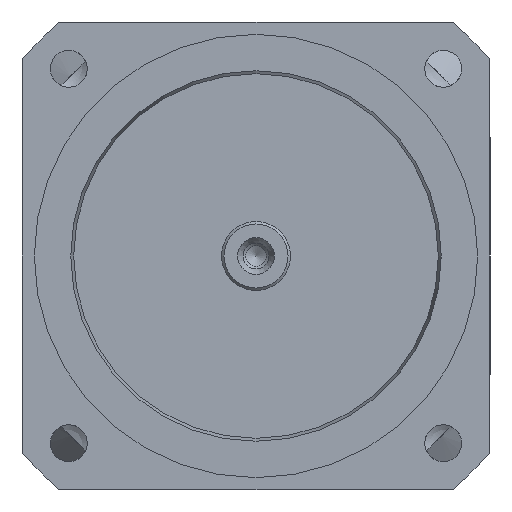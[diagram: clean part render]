
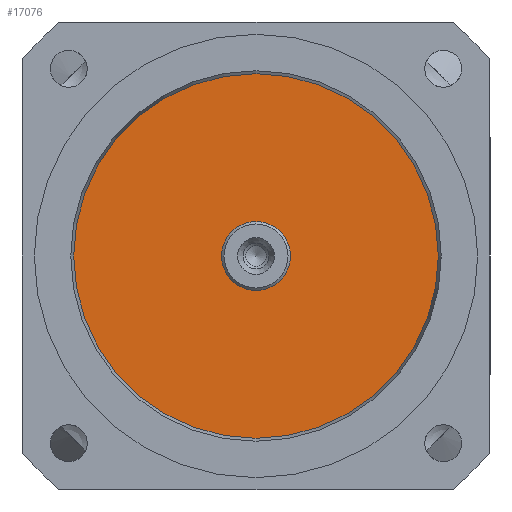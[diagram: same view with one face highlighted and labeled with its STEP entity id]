
A CAD part, left-side view. The second image highlights one B-rep face of the part: STEP entity #17076.
In plain terms, the highlighted planar face has unit normal (-1, 0, 0).
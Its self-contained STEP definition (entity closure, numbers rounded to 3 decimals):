
#3497=PLANE('',#18294);
#4164=FACE_BOUND('',#5502,.T.);
#4423=FACE_OUTER_BOUND('',#5501,.T.);
#5501=EDGE_LOOP('',(#12254));
#5502=EDGE_LOOP('',(#12255));
#6713=CIRCLE('',#18286,14.);
#6717=CIRCLE('',#18295,74.);
#7964=VERTEX_POINT('',#26079);
#7971=VERTEX_POINT('',#26101);
#9642=EDGE_CURVE('',#7964,#7964,#6713,.T.);
#9652=EDGE_CURVE('',#7971,#7971,#6717,.T.);
#12254=ORIENTED_EDGE('',*,*,#9652,.F.);
#12255=ORIENTED_EDGE('',*,*,#9642,.T.);
#17076=ADVANCED_FACE('',(#4423,#4164),#3497,.T.);
#18286=AXIS2_PLACEMENT_3D('',#26080,#20718,#20719);
#18294=AXIS2_PLACEMENT_3D('',#26100,#20740,#20741);
#18295=AXIS2_PLACEMENT_3D('',#26102,#20742,#20743);
#20718=DIRECTION('center_axis',(1.,0.,0.));
#20719=DIRECTION('ref_axis',(0.,0.,-1.));
#20740=DIRECTION('center_axis',(-1.,0.,0.));
#20741=DIRECTION('ref_axis',(0.,0.,1.));
#20742=DIRECTION('center_axis',(1.,0.,0.));
#20743=DIRECTION('ref_axis',(0.,1.,0.));
#26079=CARTESIAN_POINT('',(-145.,0.,14.));
#26080=CARTESIAN_POINT('Origin',(-145.,0.,0.));
#26100=CARTESIAN_POINT('Origin',(-145.,37.,0.));
#26101=CARTESIAN_POINT('',(-145.,74.,0.));
#26102=CARTESIAN_POINT('Origin',(-145.,0.,0.));
